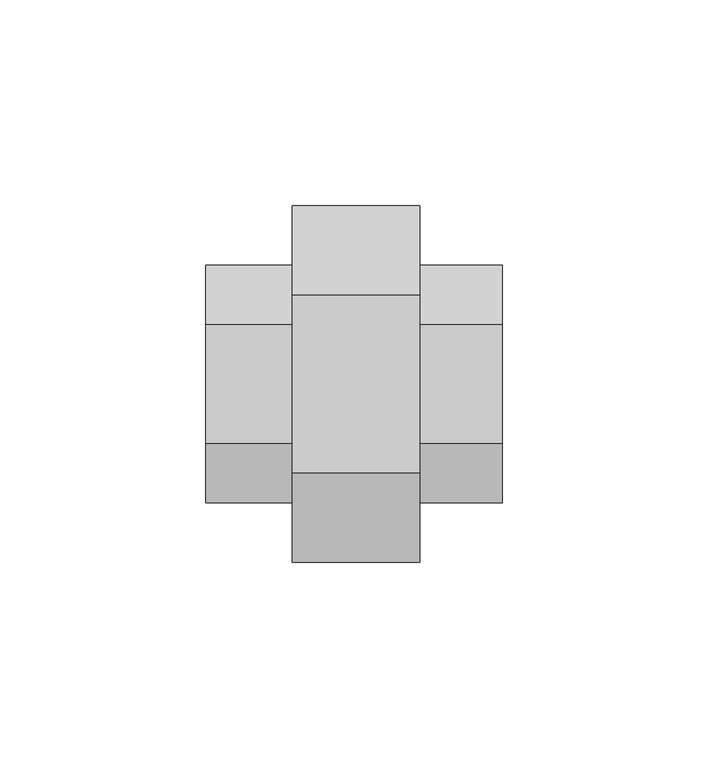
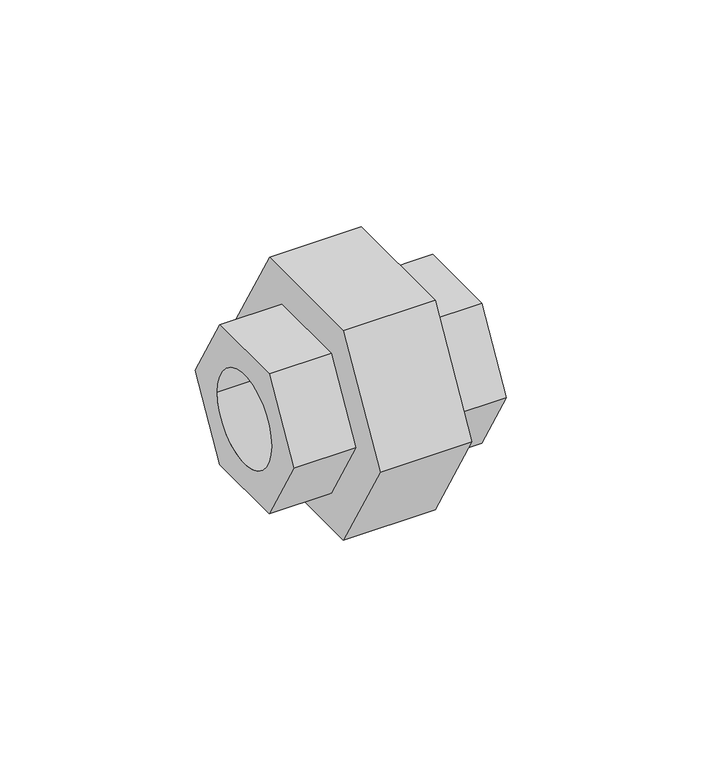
"""IFC4 building model written with IfcOpenShell, lengths in millimetres: pipe fitting geometry, 01011014 : Junções."""

import ifcopenshell
import ifcopenshell.guid

model = None  # the IFC model being written
_history = None  # IfcOwnerHistory: only IFC2X3 demands one
_inside = {}  # id of a spatial element -> (the spatial element, [elements in it])
_under = {}  # id of a project, library or spatial element -> (it, [spatial elements below it])
_declared = {}  # id of a project -> (the project, [libraries it declares])
_typed = {}  # id of a type object -> (the type object, [elements of that type])
_made_of = {}  # id of a material, layer set ... -> (it, [elements and type objects made of it])


def new_model(schema):
    """Start an empty IFC model of exactly this schema.

    Asked for "IFC4X3", IfcOpenShell would pick the latest addendum, in which some entities
    have other attributes; the version numbers below select the first issue.
    IFC2X3 requires an IfcOwnerHistory on every rooted entity: one is made here for all.
    """
    global model, _history
    if schema == "IFC4X3":
        model = ifcopenshell.file(schema_version=(4, 3, 0, 0))
    else:
        model = ifcopenshell.file(schema=schema)
    _inside.clear()
    _under.clear()
    _declared.clear()
    _typed.clear()
    _made_of.clear()
    _history = None
    if model.schema == "IFC2X3":
        org = make("IfcOrganization", Name="unknown")
        user = make(
            "IfcPersonAndOrganization",
            ThePerson=make("IfcPerson", FamilyName="unknown"),
            TheOrganization=org,
        )
        app = make(
            "IfcApplication",
            ApplicationDeveloper=org,
            Version="unknown",
            ApplicationFullName="unknown",
            ApplicationIdentifier="unknown",
        )
        _history = make(
            "IfcOwnerHistory",
            OwningUser=user,
            OwningApplication=app,
            ChangeAction="ADDED",
            CreationDate=0,
        )
    return model


def make(cls, **values):
    """One entity of the class cls with the attributes given. An attribute that is None is left unset."""
    return model.create_entity(
        cls, **{name: value for name, value in values.items() if value is not None}
    )


def rooted(cls, **values):
    """An entity with a GlobalId (a new one), such as an element, a storey or a relation."""
    return make(cls, GlobalId=ifcopenshell.guid.new(), OwnerHistory=_history, **values)


def si_unit(unit_type, name, prefix=None):
    """IfcSIUnit, for example si_unit("LENGTHUNIT", "METRE", prefix="MILLI")."""
    return make("IfcSIUnit", UnitType=unit_type, Prefix=prefix, Name=name)


def assignment(units):
    """IfcUnitAssignment: the units of a project."""
    return None if units is None else make("IfcUnitAssignment", Units=units)


def point(xyz):
    """IfcCartesianPoint."""
    return None if xyz is None else make("IfcCartesianPoint", Coordinates=xyz)


def direction(xyz):
    """IfcDirection."""
    return None if xyz is None else make("IfcDirection", DirectionRatios=xyz)


def frame(location, z_axis=None, x_axis=None):
    """IfcAxis2Placement3D, a coordinate frame: its origin and axes. An axis left out is left unset."""
    return make(
        "IfcAxis2Placement3D",
        Location=point(location),
        Axis=direction(z_axis),
        RefDirection=direction(x_axis),
    )


def origin():
    """The frame at (0, 0, 0) with its axes left unset."""
    return frame((0.0, 0.0, 0.0))


def place(relative_to, where):
    """IfcLocalPlacement: puts the frame where relative to a parent placement (None: the world)."""
    return make(
        "IfcLocalPlacement", PlacementRelTo=relative_to, RelativePlacement=where
    )


def context(
    kind, dimensions, precision=None, world=None, true_north=None, identifier=None
):
    """IfcGeometricRepresentationContext, for example the 3D "Model" context."""
    return make(
        "IfcGeometricRepresentationContext",
        ContextIdentifier=identifier,
        ContextType=kind,
        CoordinateSpaceDimension=dimensions,
        Precision=precision,
        WorldCoordinateSystem=world,
        TrueNorth=true_north,
    )


def project(units=None, contexts=None):
    """IfcProject with its units and contexts."""
    return rooted(
        "IfcProject",
        Name="project",
        RepresentationContexts=contexts,
        UnitsInContext=assignment(units),
    )


def spatial(cls, under=None, at=None, **own):
    """A site, building, storey or space (cls), placed at a placement, below another one or the project."""
    s = rooted(cls, ObjectPlacement=at, **own)
    if under is not None:
        _under.setdefault(under.id(), (under, []))[1].append(s)
    return s


def polyline(points):
    """IfcPolyline through the points."""
    return make("IfcPolyline", Points=[point(p) for p in points])


def circle_curve(where, radius):
    """IfcCircle in the frame where."""
    return make("IfcCircle", Position=where, Radius=radius)


def shape(context_of_items, identifier, shape_type, items):
    """IfcShapeRepresentation: the items that make up one representation, for example the "Body"."""
    return make(
        "IfcShapeRepresentation",
        ContextOfItems=context_of_items,
        RepresentationIdentifier=identifier,
        RepresentationType=shape_type,
        Items=items,
    )


def source(mapping_origin, context_of_items, identifier, shape_type, items):
    """IfcRepresentationMap: a shape defined once, which mapped items show again and again."""
    return make(
        "IfcRepresentationMap",
        MappingOrigin=mapping_origin,
        MappedRepresentation=shape(context_of_items, identifier, shape_type, items),
    )


def transform(
    local_origin,
    x_axis=None,
    y_axis=None,
    z_axis=None,
    scale=None,
    scale2=None,
    scale3=None,
    uniform=True,
):
    """IfcCartesianTransformationOperator3D, or its non-uniform kind. x_axis, y_axis, z_axis: its Axis1, 2, 3."""
    if uniform:
        return make(
            "IfcCartesianTransformationOperator3D",
            Axis1=direction(x_axis),
            Axis2=direction(y_axis),
            LocalOrigin=point(local_origin),
            Scale=scale,
            Axis3=direction(z_axis),
        )
    return make(
        "IfcCartesianTransformationOperator3DnonUniform",
        Axis1=direction(x_axis),
        Axis2=direction(y_axis),
        LocalOrigin=point(local_origin),
        Scale=scale,
        Axis3=direction(z_axis),
        Scale2=scale2,
        Scale3=scale3,
    )


def mapped(mapping_source, mapping_target):
    """IfcMappedItem: shows the shape of a source again, moved by a transform."""
    return make(
        "IfcMappedItem", MappingSource=mapping_source, MappingTarget=mapping_target
    )


def made_of(thing, what):
    """Note that an element or type object is made of a material, layer set ...; save() writes the relation."""
    if what is not None:
        _made_of.setdefault(what.id(), (what, []))[1].append(thing)
    return thing


def element(
    cls,
    number,
    at=None,
    inside=None,
    cuts=None,
    type_object=None,
    material=None,
    context=None,
    identifier="Body",
    shape_type=None,
    held_by="IfcProductDefinitionShape",
    body=None,
    shapes=None,
    **own,
):
    """One element of the class cls, such as IfcWall. Its Tag is "e" and its number.

    at: its placement. inside: the storey or other place that contains it. cuts: it is an
    opening in that element (IfcRelVoidsElement). A single representation is given by context,
    identifier, shape_type and body (its items); several are given by shapes. held_by: the class
    of the entity that holds the representations. save() writes the other relations.
    """
    e = rooted(cls, Tag="e%d" % number, ObjectPlacement=at, **own)
    if body is not None:
        shapes = [shape(context, identifier, shape_type, body)]
    if shapes is not None:
        e.Representation = make(held_by, Representations=shapes)
    if inside is not None:
        _inside.setdefault(inside.id(), (inside, []))[1].append(e)
    if cuts is not None:
        rooted(
            "IfcRelVoidsElement", RelatingBuildingElement=cuts, RelatedOpeningElement=e
        )
    if type_object is not None:
        _typed.setdefault(type_object.id(), (type_object, []))[1].append(e)
    return made_of(e, material)


def aggregate(whole, parts):
    """IfcRelAggregates: a whole, such as a stair, and the parts it consists of."""
    return rooted("IfcRelAggregates", RelatingObject=whole, RelatedObjects=parts)


def save(model, path):
    """Write the relations noted so far, then the file.

    IfcRelAggregates (storeys below a building ...), IfcRelContainedInSpatialStructure (elements
    in a storey), IfcRelDefinesByType, IfcRelAssociatesMaterial and IfcRelDeclares: one each for
    every whole, place, type object, material and project.
    """
    for whole, parts in _under.values():
        aggregate(whole, parts)
    for where, things in _inside.values():
        rooted(
            "IfcRelContainedInSpatialStructure",
            RelatedElements=things,
            RelatingStructure=where,
        )
    for kind, things in _typed.values():
        rooted("IfcRelDefinesByType", RelatedObjects=things, RelatingType=kind)
    for what, things in _made_of.values():
        rooted("IfcRelAssociatesMaterial", RelatedObjects=things, RelatingMaterial=what)
    for by, libraries in _declared.values():
        rooted("IfcRelDeclares", RelatingContext=by, RelatedDefinitions=libraries)
    model.write(path)


def plane_surface(at):
    """IfcPlane: the flat surface through the origin of the frame at, square to its z axis."""
    return make("IfcPlane", Position=at)


def revolved_surface(curve, axis_point, axis_direction):
    """IfcSurfaceOfRevolution: the curve turned about the line through axis_point along axis_direction."""
    return make(
        "IfcSurfaceOfRevolution",
        SweptCurve=make("IfcArbitraryOpenProfileDef", ProfileType="CURVE", Curve=curve),
        AxisPosition=make("IfcAxis1Placement", Location=point(axis_point), Axis=direction(axis_direction)),
    )


def advanced_brep(points, edges, surfaces, faces):
    """IfcAdvancedBrep: a solid bounded by faces that lie on surfaces and meet in shared edges.

    An edge is (start, end): straight between two places in points (the first is 0);
    or (start, end, curve); or (start, end, curve, False) where it runs against its curve.
    A face is (place in surfaces, loops), or (place, loops, False) where it looks against
    its surface's normal. A loop lists edges by number (the first is 1), with a minus sign
    where the edge is run from its end to its start. The first loop is the outer one.
    """
    corners = [point(p) for p in points]
    vertices = [make("IfcVertexPoint", VertexGeometry=c) for c in corners]
    made = []
    for start, end, *more in edges:
        made.append(
            make(
                "IfcEdgeCurve",
                EdgeStart=vertices[start],
                EdgeEnd=vertices[end],
                EdgeGeometry=more[0] if more else make("IfcPolyline", Points=[corners[start], corners[end]]),
                SameSense=more[1] if len(more) > 1 else True,
            )
        )
    hull = []
    for where, loops, *sense in faces:
        bounds = []
        for j, loop in enumerate(loops):
            ring = [make("IfcOrientedEdge", EdgeElement=made[abs(k) - 1], Orientation=k > 0) for k in loop]
            bounds.append(
                make(
                    "IfcFaceOuterBound" if j == 0 else "IfcFaceBound",
                    Bound=make("IfcEdgeLoop", EdgeList=ring),
                    Orientation=True,
                )
            )
        hull.append(make("IfcAdvancedFace", Bounds=bounds, FaceSurface=surfaces[where], SameSense=sense[0] if sense else True))
    return make("IfcAdvancedBrep", Outer=make("IfcClosedShell", CfsFaces=hull))


def pipe_fitting_2d925cfe(model_context):
    return source(origin(), model_context, "Body", "AdvancedBrep", [
        advanced_brep(
        [(20.0, -21.6506351, 37.5), (20.0, -43.3012702, 0.0), (20.0, -21.6506351, -37.5), (20.0, 21.6506351, -37.5), (20.0, 43.3012702, 0.0), (20.0, 21.6506351, 37.5), (20.0, -14.4337567, 25.0), (20.0, 14.4337567, 25.0), (20.0, 28.8675135, 0.0), (20.0, 14.4337567, -25.0), (20.0, -14.4337567, -25.0), (20.0, -28.8675135, 0.0), (-11.0, -21.6506351, 37.5), (-11.0, 21.6506351, 37.5), (-11.0, 43.3012702, 0.0), (-11.0, 21.6506351, -37.5), (-11.0, -21.6506351, -37.5), (-11.0, -43.3012702, 0.0), (-11.0, 14.4337567, 25.0), (-11.0, -14.4337567, 25.0), (-11.0, -28.8675135, 0.0), (-11.0, -14.4337567, -25.0), (-11.0, 14.4337567, -25.0), (-11.0, 28.8675135, 0.0), (-32.0, -14.4337567, 25.0), (-32.0, 14.4337567, 25.0), (-32.0, 28.8675135, 0.0), (-32.0, 14.4337567, -25.0), (-32.0, -14.4337567, -25.0), (-32.0, -28.8675135, 0.0), (-32.0, -15.875, 0.0), (-32.0, 15.875, 0.0), (40.0, -14.4337567, 25.0), (40.0, -28.8675135, 0.0), (40.0, -14.4337567, -25.0), (40.0, 14.4337567, -25.0), (40.0, 28.8675135, 0.0), (40.0, 14.4337567, 25.0), (40.0, 15.875, 0.0), (40.0, -15.875, 0.0)],
        [
            (0, 1),
            (1, 2),
            (2, 3),
            (3, 4),
            (4, 5),
            (5, 0),
            (6, 7),
            (7, 8),
            (8, 9),
            (9, 10),
            (10, 11),
            (11, 6),
            (12, 13),
            (13, 14),
            (14, 15),
            (15, 16),
            (16, 17),
            (17, 12),
            (18, 19),
            (19, 20),
            (20, 21),
            (21, 22),
            (22, 23),
            (23, 18),
            (0, 12),
            (17, 1),
            (16, 2),
            (15, 3),
            (14, 4),
            (13, 5),
            (24, 25),
            (25, 26),
            (26, 27),
            (27, 28),
            (28, 29),
            (29, 24),
            (30, 31, circle_curve(frame((-32.0, 0.0, 0.0), z_axis=(1.0, 0.0, 0.0), x_axis=(0.0, 1.0, 0.0)), 15.875)),
            (31, 30, circle_curve(frame((-32.0, 0.0, 0.0), z_axis=(1.0, 0.0, 0.0), x_axis=(0.0, 1.0, 0.0)), 15.875)),
            (32, 33),
            (33, 34),
            (34, 35),
            (35, 36),
            (36, 37),
            (37, 32),
            (38, 39, circle_curve(frame((40.0, 0.0, 0.0), z_axis=(-1.0, 0.0, 0.0), x_axis=(0.0, 1.0, 0.0)), 15.875)),
            (39, 38, circle_curve(frame((40.0, 0.0, 0.0), z_axis=(-1.0, 0.0, 0.0), x_axis=(0.0, 1.0, 0.0)), 15.875)),
            (24, 19),
            (18, 25),
            (37, 7),
            (6, 32),
            (23, 26),
            (36, 8),
            (22, 27),
            (35, 9),
            (21, 28),
            (34, 10),
            (20, 29),
            (33, 11),
            (38, 31),
            (30, 39),
        ],
        [
            plane_surface(frame((20.0, -21.6506351, 37.5), z_axis=(1.0000000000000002, 0.0, 0.0), x_axis=(0.0, -0.5000000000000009, -0.8660254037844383))),
            plane_surface(frame((-11.0, -21.6506351, 37.5), z_axis=(-1.0000000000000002, 0.0, 0.0), x_axis=(0.0, 0.5000000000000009, 0.8660254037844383))),
            plane_surface(frame((20.0, -21.6506351, 37.5), z_axis=(0.0, -0.8660254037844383, 0.5000000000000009), x_axis=(-1.0, 0.0, 0.0))),
            plane_surface(frame((20.0, -43.3012702, 0.0), z_axis=(0.0, -0.866025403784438, -0.5000000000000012), x_axis=(-1.0, 0.0, 0.0))),
            plane_surface(frame((20.0, -21.6506351, -37.5), z_axis=(0.0, 0.0, -1.0), x_axis=(-1.0, 0.0, 0.0))),
            plane_surface(frame((20.0, 21.6506351, -37.5), z_axis=(0.0, 0.8660254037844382, -0.500000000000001), x_axis=(-1.0, 0.0, 0.0))),
            plane_surface(frame((20.0, 43.3012702, 0.0), z_axis=(0.0, 0.866025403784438, 0.5000000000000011), x_axis=(-1.0, 0.0, 0.0))),
            plane_surface(frame((20.0, 21.6506351, 37.5), z_axis=(0.0, 0.0, 1.0), x_axis=(-1.0, 0.0, 0.0))),
            plane_surface(frame((-32.0, 0.0, 0.0), z_axis=(-1.0, 0.0, 0.0), x_axis=(0.0, 0.0, 1.0))),
            plane_surface(frame((40.0, 0.0, 0.0), z_axis=(1.0, 0.0, 0.0), x_axis=(0.0, 0.0, 1.0))),
            plane_surface(frame((-32.0, -14.4337567, 25.0), z_axis=(0.0, 0.0, 1.0), x_axis=(1.0, 0.0, 0.0))),
            plane_surface(frame((-32.0, 14.4337567, 25.0), z_axis=(0.0, 0.866025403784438, 0.500000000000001), x_axis=(1.0, 0.0, 0.0))),
            plane_surface(frame((-32.0, 28.8675135, 0.0), z_axis=(0.0, 0.8660254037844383, -0.5000000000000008), x_axis=(1.0, 0.0, 0.0))),
            plane_surface(frame((-32.0, 14.4337567, -25.0), z_axis=(0.0, 0.0, -1.0), x_axis=(1.0, 0.0, 0.0))),
            plane_surface(frame((-32.0, -14.4337567, -25.0), z_axis=(0.0, -0.866025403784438, -0.500000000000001), x_axis=(1.0, 0.0, 0.0))),
            plane_surface(frame((-32.0, -28.8675135, 0.0), z_axis=(0.0, -0.8660254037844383, 0.5000000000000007), x_axis=(1.0, 0.0, 0.0))),
            revolved_surface(polyline([(40.0, 15.875, 0.0), (-32.0, 15.875, 0.0)]), (-32.0, 0.0, 0.0), (1.0, 0.0, 0.0)),
        ],
        [
            (0, [[1, 2, 3, 4, 5, 6], [7, 8, 9, 10, 11, 12]]),
            (1, [[13, 14, 15, 16, 17, 18], [19, 20, 21, 22, 23, 24]]),
            (2, [[-1, 25, -18, 26]]),
            (3, [[-2, -26, -17, 27]]),
            (4, [[-3, -27, -16, 28]]),
            (5, [[-4, -28, -15, 29]]),
            (6, [[-5, -29, -14, 30]]),
            (7, [[-6, -30, -13, -25]]),
            (8, [[31, 32, 33, 34, 35, 36], [37, 38]]),
            (9, [[39, 40, 41, 42, 43, 44], [45, 46]]),
            (10, [[-31, 47, -19, 48]]),
            (10, [[-44, 49, -7, 50]]),
            (11, [[-32, -48, -24, 51]]),
            (11, [[-43, 52, -8, -49]]),
            (12, [[-33, -51, -23, 53]]),
            (12, [[-42, 54, -9, -52]]),
            (13, [[-34, -53, -22, 55]]),
            (13, [[-41, 56, -10, -54]]),
            (14, [[-35, -55, -21, 57]]),
            (14, [[-40, 58, -11, -56]]),
            (15, [[-36, -57, -20, -47]]),
            (15, [[-39, -50, -12, -58]]),
            (16, [[59, -37, 60, -45]]),
            (16, [[-59, -46, -60, -38]]),
        ],
    ),
    ])


if __name__ == "__main__":
    model = new_model("IFC4")
    model_context = context("Model", 3, world=origin())
    ifc_project = project(units=[si_unit("LENGTHUNIT", "METRE", prefix="MILLI")], contexts=[model_context])
    site = spatial("IfcSite", under=ifc_project)
    building = spatial("IfcBuilding", under=site)
    placement = place(None, origin())
    pipe_fitting_shape = pipe_fitting_2d925cfe(model_context)
    element("IfcPipeFitting", 1, ObjectType="01011014 : Junções", at=placement, inside=building, context=model_context, shape_type="MappedRepresentation", body=[
        mapped(pipe_fitting_shape, transform((0.0, 0.0, 0.0), x_axis=(1.0, 0.0, 0.0), y_axis=(0.0, 1.0, 0.0), z_axis=(0.0, 0.0, 1.0))),
    ])
    save(model, "model.ifc")
